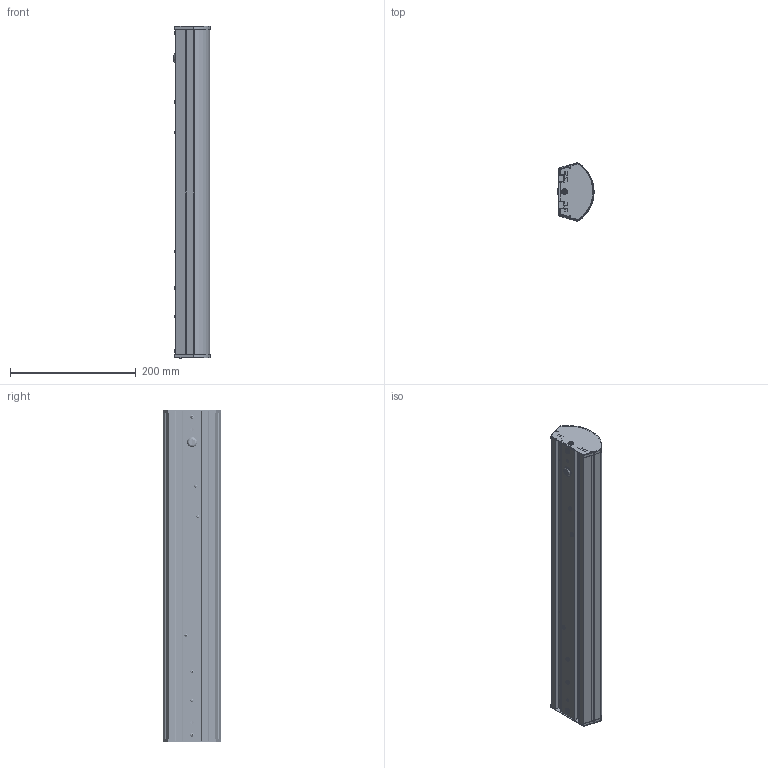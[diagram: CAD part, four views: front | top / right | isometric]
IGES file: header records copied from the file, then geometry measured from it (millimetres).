
Start section: SolidWorks IGES file using analytic representation for surfaces
Global section: file name: \\192.168.111.232\grupos\DISENYO\DESARROLLO DE PRODUCTO\ALDO-3432\ALDO 530 - A3432170\ALDO 530 - A3432170.IGS; native system: SolidWorks 2025; preprocessor: SolidWorks 2025; author: o.domenech; date: 260120.090551; units: millimetre
Bounding box: 57.53 x 93 x 527 mm (x, y, z)
Volume: 227482.8 mm3; surface area: 381813.6 mm2
Topology: 53 solids, 53 shells, 2260 faces, 17982 edges, 21663 vertices
Faces by surface type: revolution 1177, plane 928, bspline 155
